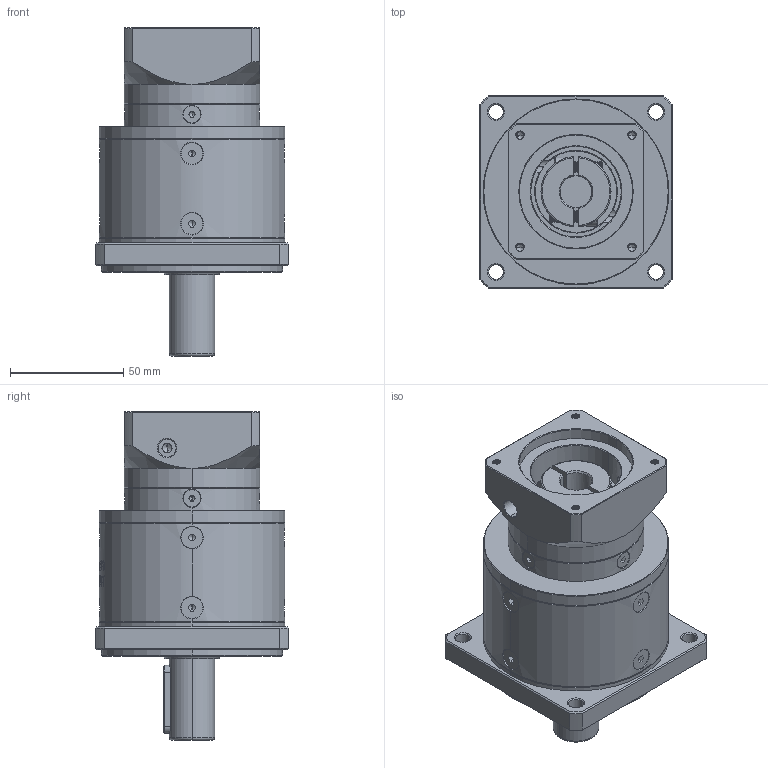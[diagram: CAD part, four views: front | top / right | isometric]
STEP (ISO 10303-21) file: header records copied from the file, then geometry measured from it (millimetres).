
FILE_DESCRIPTION (( 'STEP AP214' ), '1' );
FILE_NAME ('ZF080-D20-L2-P2-14-50-70-M4.step', '2023-08-19T06:52:49', ( '' ), ( '' ), 'SwSTEP 2.0', 'SolidWorks 2016', '' );
FILE_SCHEMA (( 'AUTOMOTIVE_DESIGN' ));
Length unit declared in the file: millimetre
Products named in the file (1): ZF080-D20-L2-P2-14-50-70-M4
Bounding box: 85 x 85 x 145 mm (x, y, z)
Volume: 469217 mm3; surface area: 67361.6 mm2
Topology: 18 solids, 18 shells, 2261 faces, 5954 edges, 3794 vertices
Faces by surface type: plane 1123, bspline 394, cylinder 375, cone 327, torus 42
Entity records: 116811 total; most frequent: CARTESIAN_POINT 40910, ORIENTED_EDGE 11832, DIRECTION 8907, EDGE_CURVE 5916, VERTEX_POINT 3794, LINE 3133, VECTOR 3133, AXIS2_PLACEMENT_3D 2887
